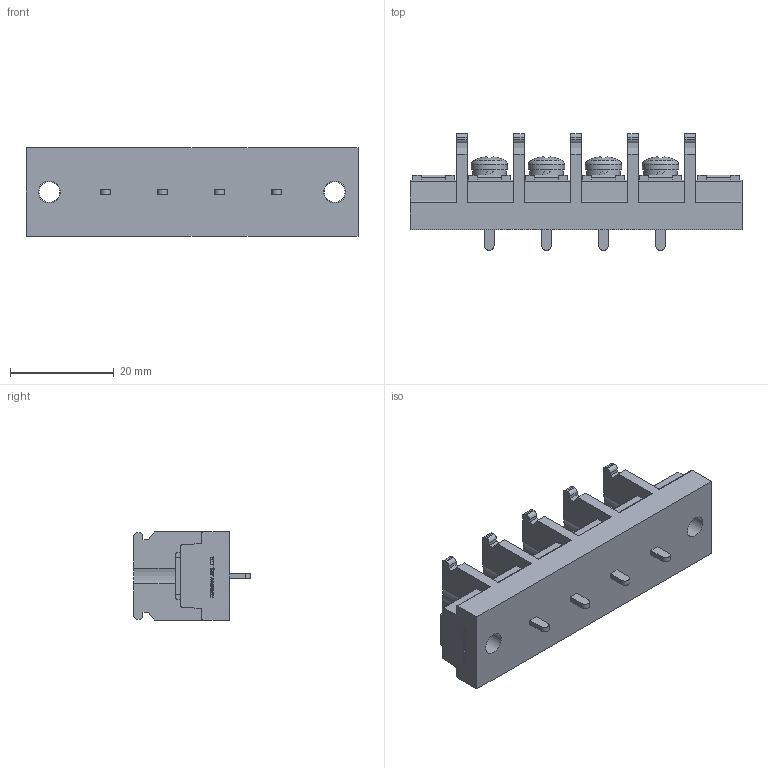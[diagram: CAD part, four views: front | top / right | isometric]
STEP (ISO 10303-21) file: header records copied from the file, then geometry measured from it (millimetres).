
FILE_DESCRIPTION(/* description */ ('Alibre Inc.'),/* implementation_level */ '2;1');
FILE_NAME(/* name */ 'export0',/* time_stamp */ '2015-10-19T19:06:49+09:00',/* author */ (''),/* organization */ (''),/* preprocessor_version */ 'ST-DEVELOPER v14',/* originating_system */ 'Alibre',/* authorisation */ '');
FILE_SCHEMA (('CONFIG_CONTROL_DESIGN'));
Length unit declared in the file: centimetre
Products named in the file (1): ID_1
Bounding box: 64 x 22.5 x 17 mm (x, y, z)
Volume: 11254.7 mm3; surface area: 6483.4 mm2
Topology: 1 solids, 1 shells, 744 faces, 2048 edges, 1362 vertices
Faces by surface type: plane 526, bspline 104, cylinder 86, cone 16, torus 8, sphere 4
Full cylindrical faces by diameter (mm): 4 x6, 4.2 x2, 6.5 x4, 7 x4
Entity records: 22961 total; most frequent: CARTESIAN_POINT 5152, ORIENTED_EDGE 4028, DIRECTION 2799, EDGE_CURVE 2014, VECTOR 1477, LINE 1477, VERTEX_POINT 1348, AXIS2_PLACEMENT_3D 919
